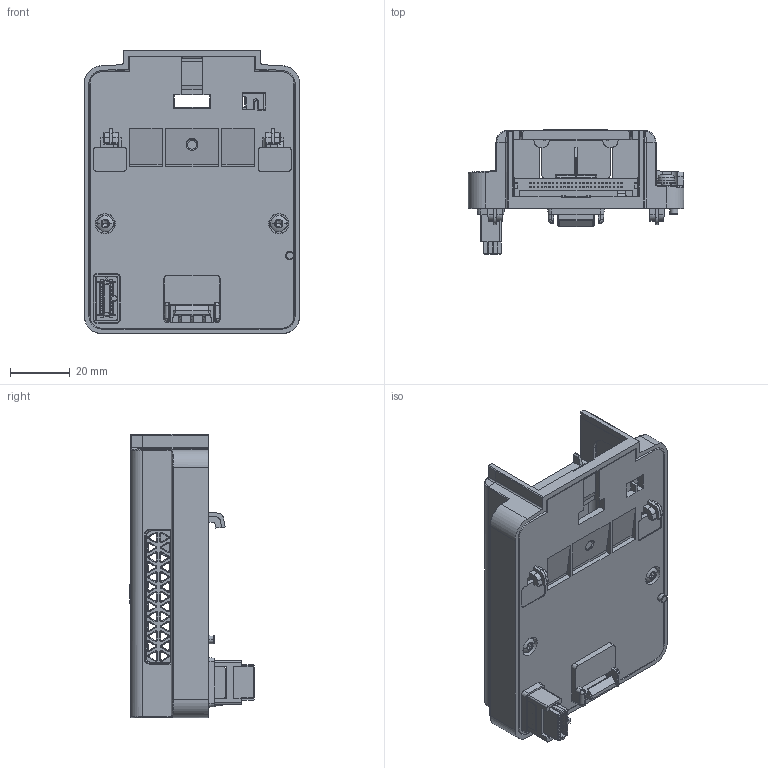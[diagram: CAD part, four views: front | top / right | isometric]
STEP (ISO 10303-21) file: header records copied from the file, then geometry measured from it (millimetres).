
FILE_DESCRIPTION((''),'2;1');
FILE_NAME('OPTION_CARD_ID_ASM','2017-03-09T',('SESA59571'),('Schneider-Electric'),'PRO/ENGINEER BY PARAMETRIC TECHNOLOGY CORPORATION, 2015440','PRO/ENGINEER BY PARAMETRIC TECHNOLOGY CORPORATION, 2015440','');
FILE_SCHEMA(('CONFIG_CONTROL_DESIGN'));
Products named in the file (13): NHA1033901; EAV79779; OPTION_CONNECTOR; TYCO_14PIN_2271452_OPTION; STUD_27999-02251; EAV79779_ASM; NHA1034201; NHA1034301; M3_6S; HUA2291101; RS3C_DANGER_LABEL; ATV32C_NUT_M3; OPTION_CARD_ID_ASM
Assembly tree (13 placements, depth 3):
  OPTION_CARD_ID_ASM
    NHA1033901
    EAV79779_ASM
      EAV79779
      OPTION_CONNECTOR
      TYCO_14PIN_2271452_OPTION
      STUD_27999-02251
    NHA1034201
    NHA1034301
    M3_6S
    HUA2291101  x2
    RS3C_DANGER_LABEL
    ATV32C_NUT_M3
Bounding box: 72 x 41.6 x 94.7 mm (x, y, z)
Volume: 45317.4 mm3; surface area: 60066.4 mm2
Topology: 12 solids, 13 shells, 7060 faces, 20322 edges, 13068 vertices
Faces by surface type: plane 4736, cylinder 1804, bspline 306, cone 138, torus 67, sphere 9
Entity records: 251961 total; most frequent: CARTESIAN_POINT 67598, ORIENTED_EDGE 40468, DIRECTION 35642, EDGE_CURVE 20234, VECTOR 15622, LINE 15622, VERTEX_POINT 13019, AXIS2_PLACEMENT_3D 10010
